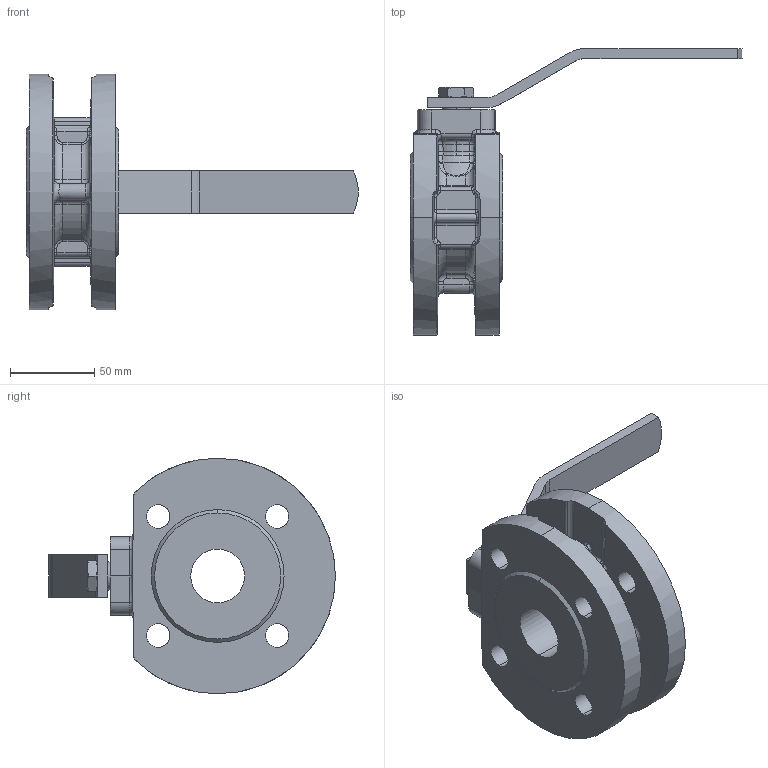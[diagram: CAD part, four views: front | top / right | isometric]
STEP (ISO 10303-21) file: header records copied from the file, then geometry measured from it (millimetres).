
FILE_DESCRIPTION (( 'STEP AP203' ), '1' );
FILE_NAME ('B1.000I032L16CN_1.STEP', '2012-06-08T12:07:31', ( ' ' ), ( '' ), 'SwSTEP 2.0', 'SolidWorks 2009', '' );
FILE_SCHEMA (( 'CONFIG_CONTROL_DESIGN' ));
Length unit declared in the file: millimetre
Products named in the file (1): B1.000I032L16CN_1
Bounding box: 197.39 x 170.5 x 140 mm (x, y, z)
Volume: 519615.7 mm3; surface area: 88156.9 mm2
Topology: 1 solids, 3 shells, 351 faces, 839 edges, 505 vertices
Faces by surface type: bspline 130, cylinder 107, plane 57, cone 38, torus 19
Entity records: 15383 total; most frequent: CARTESIAN_POINT 8213, ORIENTED_EDGE 1678, DIRECTION 1231, EDGE_CURVE 839, AXIS2_PLACEMENT_3D 515, VERTEX_POINT 505, EDGE_LOOP 380, FACE_OUTER_BOUND 351
